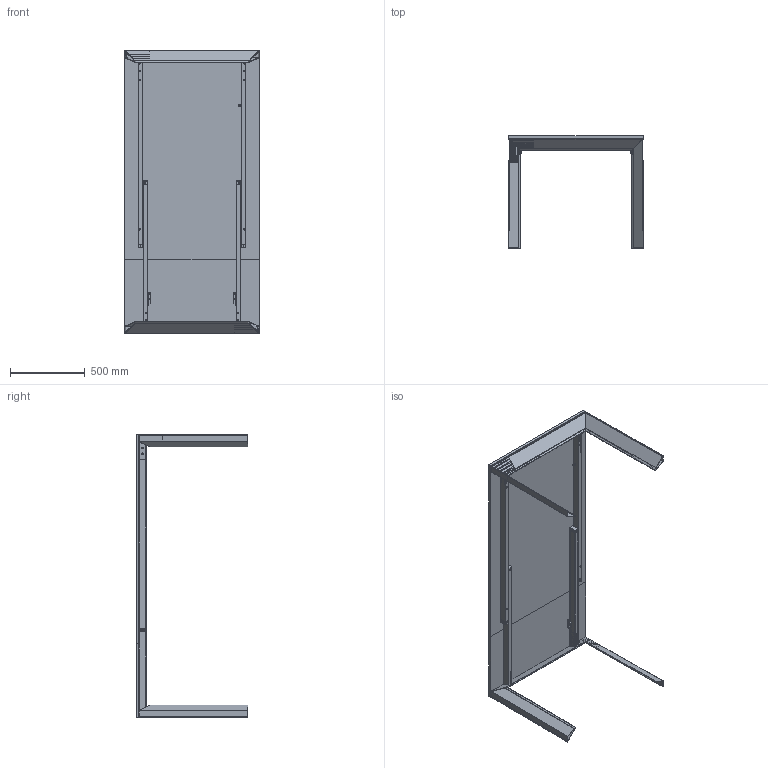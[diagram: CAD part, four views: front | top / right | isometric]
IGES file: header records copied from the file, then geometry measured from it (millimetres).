
Start section: SolidWorks IGES file using NURBS representation for surfaces
Global section: file name: R:\UFFICIO TECNICO\ARCHIVIO DISEGNI\3D\APOLLO.IGS; native system: SolidWorks 2011; preprocessor: SolidWorks 2011; author: Alberto; date: 140416.113349; units: millimetre
Bounding box: 907.74 x 748.67 x 1900 mm (x, y, z)
Surface area: 7230725.8 mm2 (no closed solid volume)
Topology: 0 solids, 0 shells, 1484 faces, 19824 edges, 19780 vertices
Faces by surface type: bspline 1484
